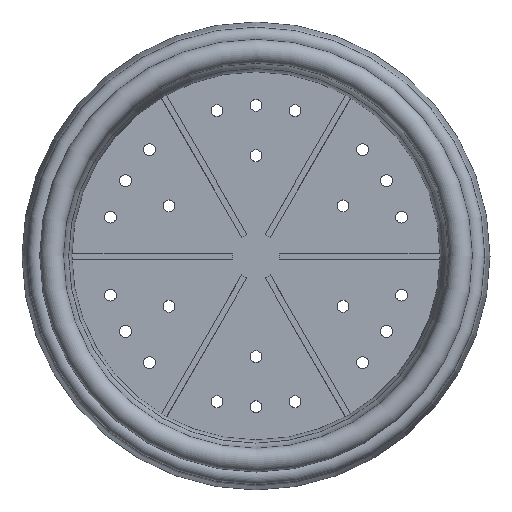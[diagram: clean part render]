
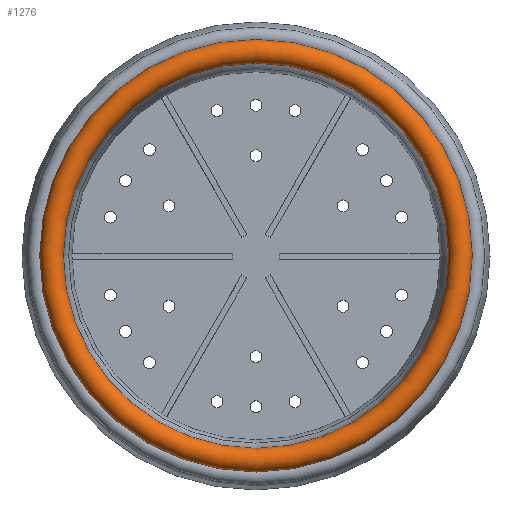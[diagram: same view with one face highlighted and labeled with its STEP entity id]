
A CAD part, top view. The second image highlights one B-rep face of the part: STEP entity #1276.
In plain terms, the highlighted toroidal (fillet/blend) face has major radius 86.5 mm and minor radius 5 mm.
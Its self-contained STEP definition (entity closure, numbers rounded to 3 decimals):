
#18=TOROIDAL_SURFACE('',#1441,86.5,5.);
#154=FACE_OUTER_BOUND('',#245,.T.);
#245=EDGE_LOOP('',(#1097,#1098,#1099,#1100));
#522=CIRCLE('',#1440,90.33);
#523=CIRCLE('',#1442,81.5);
#524=CIRCLE('',#1443,5.);
#643=VERTEX_POINT('',#2201);
#644=VERTEX_POINT('',#2205);
#810=EDGE_CURVE('',#643,#643,#522,.T.);
#812=EDGE_CURVE('',#644,#644,#523,.T.);
#813=EDGE_CURVE('',#644,#643,#524,.T.);
#1097=ORIENTED_EDGE('',*,*,#812,.F.);
#1098=ORIENTED_EDGE('',*,*,#813,.T.);
#1099=ORIENTED_EDGE('',*,*,#810,.T.);
#1100=ORIENTED_EDGE('',*,*,#813,.F.);
#1276=ADVANCED_FACE('',(#154),#18,.T.);
#1440=AXIS2_PLACEMENT_3D('',#2202,#1821,#1822);
#1441=AXIS2_PLACEMENT_3D('',#2204,#1824,#1825);
#1442=AXIS2_PLACEMENT_3D('',#2206,#1826,#1827);
#1443=AXIS2_PLACEMENT_3D('',#2207,#1828,#1829);
#1821=DIRECTION('center_axis',(0.,0.,1.));
#1822=DIRECTION('ref_axis',(1.,0.,0.));
#1824=DIRECTION('center_axis',(0.,0.,1.));
#1825=DIRECTION('ref_axis',(1.,0.,0.));
#1826=DIRECTION('center_axis',(0.,0.,1.));
#1827=DIRECTION('ref_axis',(1.,0.,0.));
#1828=DIRECTION('center_axis',(0.,-1.,0.));
#1829=DIRECTION('ref_axis',(-1.,0.,0.));
#2201=CARTESIAN_POINT('',(-90.33,0.,91.786));
#2202=CARTESIAN_POINT('Origin',(0.,0.,91.786));
#2204=CARTESIAN_POINT('Origin',(0.,0.,95.));
#2205=CARTESIAN_POINT('',(-81.5,0.,95.));
#2206=CARTESIAN_POINT('Origin',(0.,0.,95.));
#2207=CARTESIAN_POINT('Origin',(-86.5,0.,95.));
